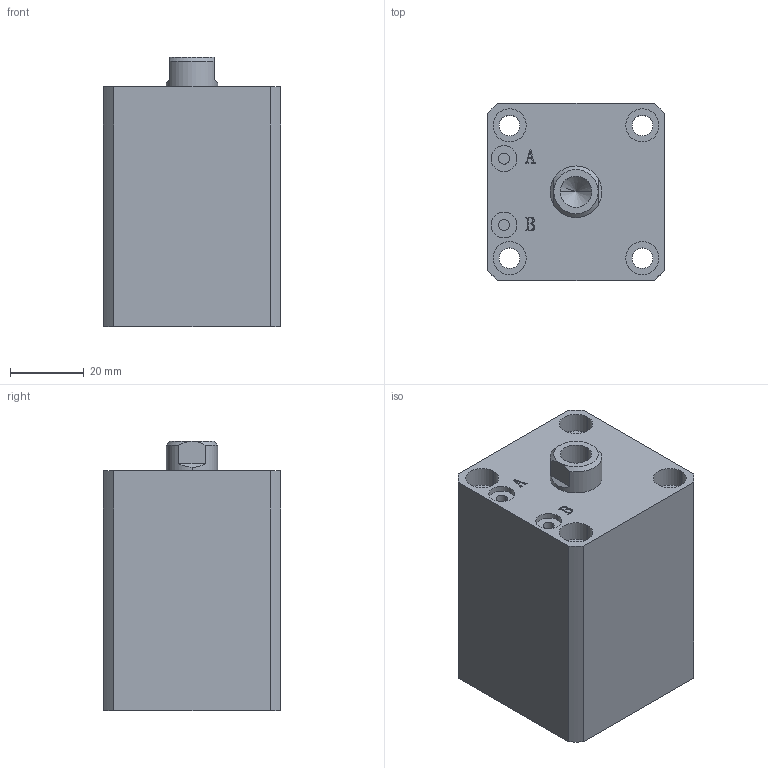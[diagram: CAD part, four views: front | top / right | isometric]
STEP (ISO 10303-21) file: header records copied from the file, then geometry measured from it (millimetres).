
FILE_DESCRIPTION (( 'STEP AP203' ), '1' );
FILE_NAME ('HTB-SDMA25-20N.STEP', '2019-10-07T10:51:28', ( '微软用户' ), ( '微软中国' ), 'SwSTEP 2.0', 'SolidWorks 2012', '' );
FILE_SCHEMA (( 'CONFIG_CONTROL_DESIGN' ));
Length unit declared in the file: millimetre
Products named in the file (3): HTB-SDMA25-20N; HTB-SDMA25-20N活塞杆; HTB-SDMA25-20掛极
Assembly tree (2 placements, depth 2):
  HTB-SDMA25-20N
    HTB-SDMA25-20掛极
    HTB-SDMA25-20N活塞杆
Bounding box: 48 x 48 x 73 mm (x, y, z)
Volume: 133721.2 mm3; surface area: 30959.9 mm2
Topology: 2 solids, 2 shells, 137 faces, 329 edges, 215 vertices
Faces by surface type: plane 65, cylinder 46, bspline 16, torus 6, cone 4
Entity records: 5072 total; most frequent: CARTESIAN_POINT 1592, ORIENTED_EDGE 654, DIRECTION 645, EDGE_CURVE 327, AXIS2_PLACEMENT_3D 232, VERTEX_POINT 215, LINE 181, VECTOR 181
